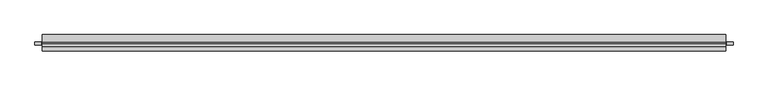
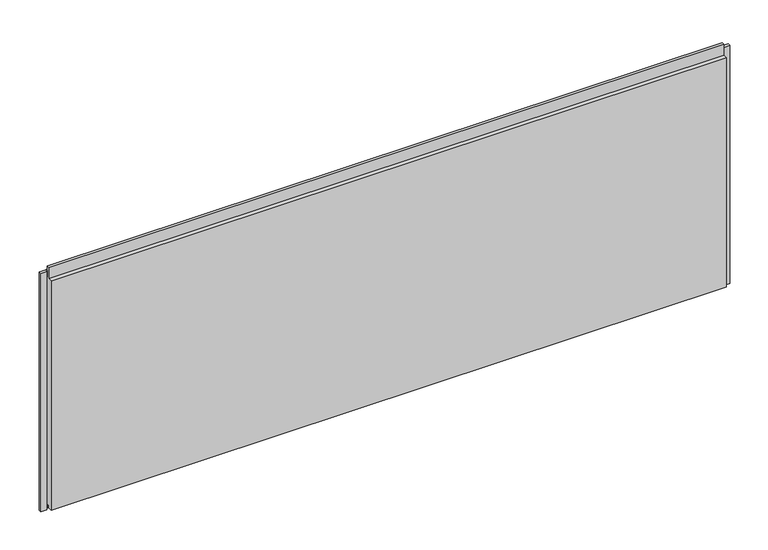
"""IFC4 building model written with IfcOpenShell, lengths in millimetres: plate geometry, Trimo_Qbiss Screen_Normal Panel-HORIZONTAL : HR - B."""

from ifc_helpers import new_model, si_unit, frame, origin, place, context, project, spatial, polyline, outline, extrude, source, transform, mapped, element, save


def plate_37b519e1(model_context):
    return source(origin(), model_context, "Body", "SweptSolid", [
        extrude(outline(polyline([(-1057.6, 76.5978162), (-1057.6, 67.8978162), (-1076.6, 67.8978162), (-1076.6, 76.5978162), (-1057.6, 76.5978162)])), frame((0.0, 0.0, -1.0), z_axis=(0.0, 0.0, 1.0), x_axis=(1.0, 0.0, 0.0)), (0.0, 0.0, 1.0), 787.95),
        extrude(outline(polyline([(1057.6, 67.8978162), (1057.6, 76.5978162), (1076.6, 76.5978162), (1076.6, 67.8978162), (1057.6, 67.8978162)])), frame((0.0, 0.0, -1.0), z_axis=(0.0, 0.0, 1.0), x_axis=(1.0, 0.0, 0.0)), (0.0, 0.0, 1.0), 787.95),
        extrude(outline(polyline([(1054.6, 76.0), (1054.6, 71.0), (-1054.6, 71.0), (-1054.6, 76.0), (1054.6, 76.0)])), frame((0.0, 0.0, 765.95), z_axis=(0.0, 0.0, 1.0), x_axis=(1.0, 0.0, 0.0)), (0.0, 0.0, 1.0), 21.0),
        extrude(outline(polyline([(71.0, 764.95), (100.0, 764.95), (100.0, 0.0), (72.0, 0.0), (72.0, 15.5), (62.0, 15.5), (62.0, 7.0), (50.0, 7.0), (50.0, 764.95), (63.0, 764.95), (63.0, 802.45), (71.0, 802.45), (71.0, 764.95)])), frame((-1054.6, 0.0, 0.0), z_axis=(1.0, 0.0, 0.0), x_axis=(0.0, 1.0, 0.0)), (0.0, 0.0, 1.0), 2109.2),
    ])


if __name__ == "__main__":
    model = new_model("IFC4")
    model_context = context("Model", 3, world=origin())
    ifc_project = project(units=[si_unit("LENGTHUNIT", "METRE", prefix="MILLI")], contexts=[model_context])
    site = spatial("IfcSite", under=ifc_project)
    building = spatial("IfcBuilding", under=site)
    placement = place(None, origin())
    plate_shape = plate_37b519e1(model_context)
    element("IfcPlate", 1, ObjectType="Trimo_Qbiss Screen_Normal Panel-HORIZONTAL : HR - B", at=placement, inside=building, context=model_context, shape_type="MappedRepresentation", body=[
        mapped(plate_shape, transform((0.0, 0.0, 0.0), x_axis=(1.0, 0.0, 0.0), y_axis=(0.0, 1.0, 0.0), z_axis=(0.0, 0.0, 1.0))),
    ])
    save(model, "model.ifc")
